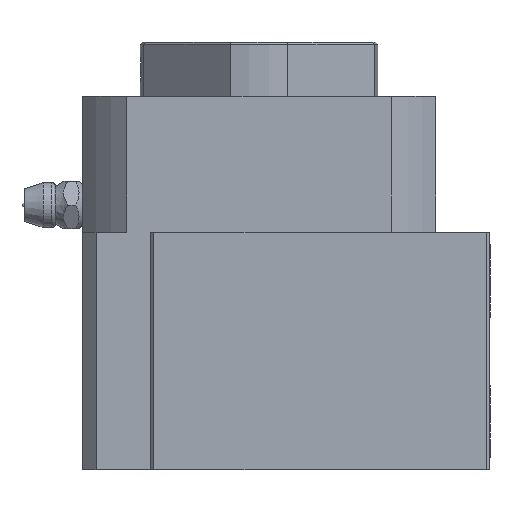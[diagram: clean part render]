
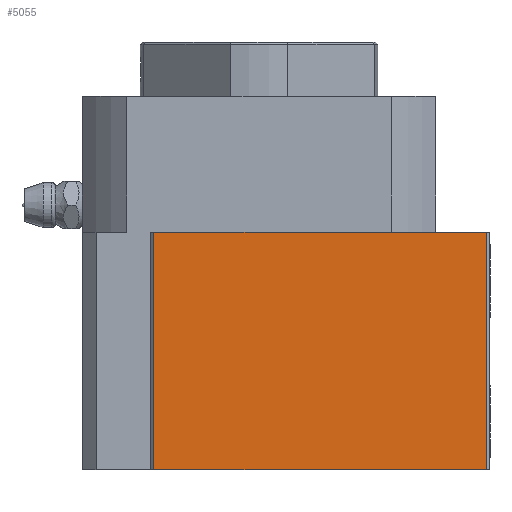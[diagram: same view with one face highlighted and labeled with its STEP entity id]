
A CAD part, left-side view. The second image highlights one B-rep face of the part: STEP entity #5055.
In plain terms, the highlighted planar face has unit normal (-1, 0, 0).
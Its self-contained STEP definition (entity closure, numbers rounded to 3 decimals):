
#800 = AXIS2_PLACEMENT_3D ( 'NONE', #6032, #6991, #7029 ) ;
#901 = DIRECTION ( 'NONE',  ( 0., 1., 0. ) ) ;
#1108 = VERTEX_POINT ( 'NONE', #13362 ) ;
#1253 = FACE_OUTER_BOUND ( 'NONE', #7595, .T. ) ;
#1786 = ORIENTED_EDGE ( 'NONE', *, *, #8239, .T. ) ;
#2605 = CARTESIAN_POINT ( 'NONE',  ( -44., -33.5, 0. ) ) ;
#2737 = VERTEX_POINT ( 'NONE', #3534 ) ;
#3534 = CARTESIAN_POINT ( 'NONE',  ( -44., 15.5, 0. ) ) ;
#4374 = EDGE_CURVE ( 'NONE', #1108, #2737, #10873, .T. ) ;
#4719 = CARTESIAN_POINT ( 'NONE',  ( -44., 15.5, 35. ) ) ;
#4867 = VERTEX_POINT ( 'NONE', #2605 ) ;
#5055 = ADVANCED_FACE ( 'NONE', ( #1253 ), #10219, .T. ) ;
#5231 = VECTOR ( 'NONE', #7506, 1000. ) ;
#5928 = ORIENTED_EDGE ( 'NONE', *, *, #12244, .F. ) ;
#6032 = CARTESIAN_POINT ( 'NONE',  ( -44., 0., 35. ) ) ;
#6038 = ORIENTED_EDGE ( 'NONE', *, *, #9715, .F. ) ;
#6966 = CARTESIAN_POINT ( 'NONE',  ( -44., 0., 35. ) ) ;
#6991 = DIRECTION ( 'NONE',  ( -1., 0., 0. ) ) ;
#7029 = DIRECTION ( 'NONE',  ( 0., 0., 1. ) ) ;
#7506 = DIRECTION ( 'NONE',  ( 0., 1., 0. ) ) ;
#7595 = EDGE_LOOP ( 'NONE', ( #6038, #5928, #1786, #10481 ) ) ;
#7652 = CARTESIAN_POINT ( 'NONE',  ( -44., 0., 0. ) ) ;
#7895 = DIRECTION ( 'NONE',  ( 0., 0., -1. ) ) ;
#8005 = LINE ( 'NONE', #7652, #5231 ) ;
#8185 = VECTOR ( 'NONE', #901, 1000. ) ;
#8239 = EDGE_CURVE ( 'NONE', #13098, #1108, #11287, .T. ) ;
#8597 = LINE ( 'NONE', #10099, #12211 ) ;
#9075 = VECTOR ( 'NONE', #11999, 1000. ) ;
#9715 = EDGE_CURVE ( 'NONE', #4867, #2737, #8005, .T. ) ;
#10099 = CARTESIAN_POINT ( 'NONE',  ( -44., -33.5, 35. ) ) ;
#10219 = PLANE ( 'NONE',  #800 ) ;
#10481 = ORIENTED_EDGE ( 'NONE', *, *, #4374, .T. ) ;
#10873 = LINE ( 'NONE', #4719, #9075 ) ;
#10880 = CARTESIAN_POINT ( 'NONE',  ( -44., -33.5, 35. ) ) ;
#11287 = LINE ( 'NONE', #6966, #8185 ) ;
#11999 = DIRECTION ( 'NONE',  ( 0., 0., -1. ) ) ;
#12211 = VECTOR ( 'NONE', #7895, 1000. ) ;
#12244 = EDGE_CURVE ( 'NONE', #13098, #4867, #8597, .T. ) ;
#13098 = VERTEX_POINT ( 'NONE', #10880 ) ;
#13362 = CARTESIAN_POINT ( 'NONE',  ( -44., 15.5, 35. ) ) ;
